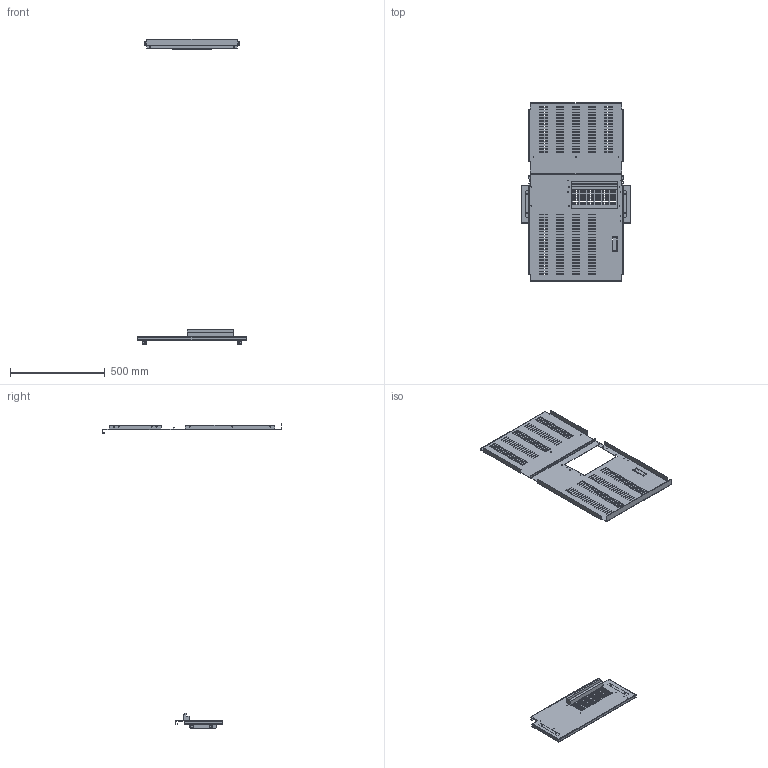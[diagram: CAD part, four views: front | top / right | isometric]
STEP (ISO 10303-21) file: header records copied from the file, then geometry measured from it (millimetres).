
FILE_DESCRIPTION(('CAx-IF Rec.Pracs.---Model Styling and Organization---1.2---2011-12-15','CAx-IF Rec.Pracs.---Geometric and Assembly Validation Properties---4.1---2014-06-16','CAx-IF Rec.Pracs.---PMI Polyline Presentation---2.0---2013-05-24'),'2;1');
FILE_NAME('R5M2UBFRNG12 (2200x600x(400+800)) (8).stp','2021-05-05T12:07:24+03:00',(''),(''),'STEP Interface 4.4 by CT CoreTechnologie','3D_Evolution4.4 by CT CoreTechnologie','');
FILE_SCHEMA(('AUTOMOTIVE_DESIGN { 1 0 10303 214 1 1 1 1 }'));
Length unit declared in the file: millimetre
Products named in the file (9): R5M2UBFR10 (2000õ600õ; RB.0837.00.00.0_-01; RB.0792.00.00.0_-00; RB.0834.00.00.1_-00; M8x16-DIN 6921_thread; M8-DIN 6923 (CM100800)_thread; RB.0836.00.00.0; RB.0835.00.00.0_-00; RB.0837.00.00.0_-00
Assembly tree (14 placements, depth 2):
  R5M2UBFR10 (2000õ600õ
    RB.0837.00.00.0_-01
    RB.0792.00.00.0_-00
    RB.0834.00.00.1_-00
    M8x16-DIN 6921_thread  x4
    M8-DIN 6923 (CM100800)_thread  x4
    RB.0836.00.00.0
    RB.0835.00.00.0_-00
    RB.0837.00.00.0_-00
Bounding box: 580 x 945.5 x 1617 mm (x, y, z)
Surface area: 1417717.3 mm2 (no closed solid volume)
Topology: 0 solids, 14 shells, 1592 faces, 4335 edges, 2769 vertices
Faces by surface type: plane 1124, bspline 264, cylinder 204
Entity records: 44715 total; most frequent: CARTESIAN_POINT 9003, ORIENTED_EDGE 7478, DIRECTION 6561, EDGE_CURVE 3741, VECTOR 3307, LINE 3307, VERTEX_POINT 2445, EDGE_LOOP 1860
